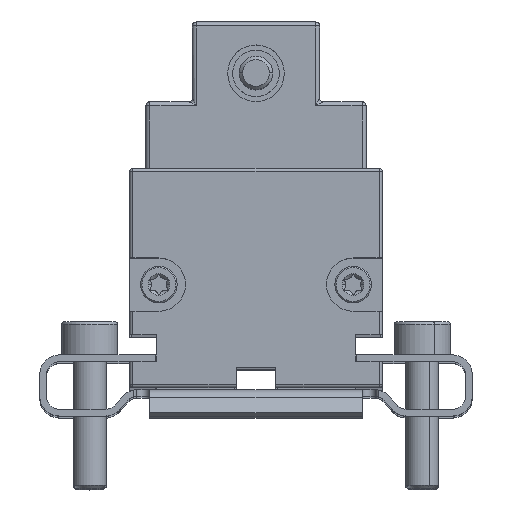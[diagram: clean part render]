
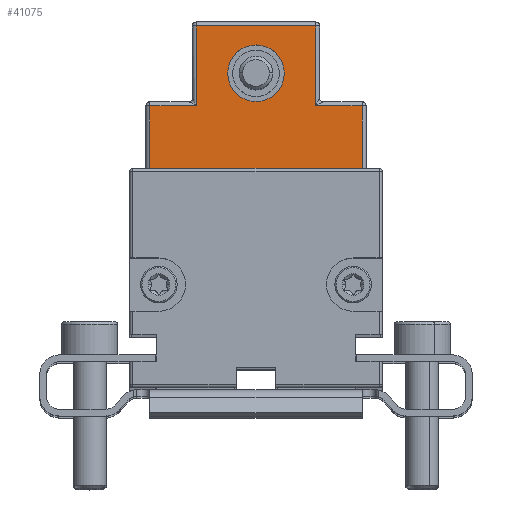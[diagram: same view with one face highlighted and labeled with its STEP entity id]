
A CAD part, top view. The second image highlights one B-rep face of the part: STEP entity #41075.
In plain terms, the highlighted planar face has unit normal (0, 0, 1).
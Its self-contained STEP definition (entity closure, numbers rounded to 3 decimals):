
#15594 = CARTESIAN_POINT ( 'NONE',  ( 0., 51.75, 104.1 ) ) ;
#15595 = DIRECTION ( 'NONE',  ( 0., 1., 0. ) ) ;
#15596 = DIRECTION ( 'NONE',  ( 0., 0., 1. ) ) ;
#15597 = AXIS2_PLACEMENT_3D ( 'NONE', #15629, #15596, #15595 ) ;
#15598 = CIRCLE ( 'NONE', #15597, 4.25 ) ;
#15629 = CARTESIAN_POINT ( 'NONE',  ( 0., 47.5, 104.1 ) ) ;
#15847 = CARTESIAN_POINT ( 'NONE',  ( 0., 43.25, 104.1 ) ) ;
#16575 = DIRECTION ( 'NONE',  ( 0., 1., 0. ) ) ;
#16576 = DIRECTION ( 'NONE',  ( 0., 0., 1. ) ) ;
#16577 = CARTESIAN_POINT ( 'NONE',  ( 0., 47.5, 104.1 ) ) ;
#16578 = AXIS2_PLACEMENT_3D ( 'NONE', #16577, #16576, #16575 ) ;
#16583 = CIRCLE ( 'NONE', #16578, 4.25 ) ;
#16658 = DIRECTION ( 'NONE',  ( 0., -1., 0. ) ) ;
#16659 = VECTOR ( 'NONE', #16658, 1000. ) ;
#16660 = CARTESIAN_POINT ( 'NONE',  ( -8.95, 31.3, 104.1 ) ) ;
#16661 = LINE ( 'NONE', #16660, #16659 ) ;
#16662 = CARTESIAN_POINT ( 'NONE',  ( -8.95, 54.6, 104.1 ) ) ;
#16663 = DIRECTION ( 'NONE',  ( -1., 0., 0. ) ) ;
#16664 = VECTOR ( 'NONE', #16663, 1000. ) ;
#16665 = CARTESIAN_POINT ( 'NONE',  ( -15.25, 54.6, 104.1 ) ) ;
#16666 = LINE ( 'NONE', #16665, #16664 ) ;
#16667 = CARTESIAN_POINT ( 'NONE',  ( 8.95, 54.6, 104.1 ) ) ;
#16668 = DIRECTION ( 'NONE',  ( 0., 1., 0. ) ) ;
#16669 = VECTOR ( 'NONE', #16668, 1000. ) ;
#16670 = CARTESIAN_POINT ( 'NONE',  ( 8.95, 55.2, 104.1 ) ) ;
#16671 = LINE ( 'NONE', #16670, #16669 ) ;
#16672 = CARTESIAN_POINT ( 'NONE',  ( 8.95, 42.6, 104.1 ) ) ;
#16673 = DIRECTION ( 'NONE',  ( -1., 0., 0. ) ) ;
#16674 = VECTOR ( 'NONE', #16673, 1000. ) ;
#16675 = CARTESIAN_POINT ( 'NONE',  ( -15.25, 42.6, 104.1 ) ) ;
#16676 = LINE ( 'NONE', #16675, #16674 ) ;
#16677 = DIRECTION ( 'NONE',  ( 0., 1., 0. ) ) ;
#16678 = VECTOR ( 'NONE', #16677, 1000. ) ;
#16679 = CARTESIAN_POINT ( 'NONE',  ( 15.95, 31.3, 104.1 ) ) ;
#16680 = LINE ( 'NONE', #16679, #16678 ) ;
#17021 = FACE_OUTER_BOUND ( 'NONE', #40861, .T. ) ;
#17022 = FACE_BOUND ( 'NONE', #41076, .T. ) ;
#17051 = DIRECTION ( 'NONE',  ( 0., -1., 0. ) ) ;
#17052 = DIRECTION ( 'NONE',  ( 0., 0., -1. ) ) ;
#17053 = CARTESIAN_POINT ( 'NONE',  ( -15.25, 31.3, 104.1 ) ) ;
#17054 = AXIS2_PLACEMENT_3D ( 'NONE', #17053, #17052, #17051 ) ;
#17056 = PLANE ( 'NONE',  #17054 ) ;
#21101 = CARTESIAN_POINT ( 'NONE',  ( -16.55, 42.6, 104.1 ) ) ;
#21102 = VECTOR ( 'NONE', #21123, 1000. ) ;
#21110 = CARTESIAN_POINT ( 'NONE',  ( 9.75, 31., 104.1 ) ) ;
#21111 = DIRECTION ( 'NONE',  ( -1., 0., 0. ) ) ;
#21112 = VECTOR ( 'NONE', #21111, 1000. ) ;
#21113 = CARTESIAN_POINT ( 'NONE',  ( 9.75, 31., 104.1 ) ) ;
#21114 = LINE ( 'NONE', #21113, #21112 ) ;
#21119 = CARTESIAN_POINT ( 'NONE',  ( 15.95, 42.6, 104.1 ) ) ;
#21120 = CARTESIAN_POINT ( 'NONE',  ( 15.95, 31.2, 104.1 ) ) ;
#21121 = DIRECTION ( 'NONE',  ( -1., 0., 0. ) ) ;
#21122 = CARTESIAN_POINT ( 'NONE',  ( -8.95, 42.6, 104.1 ) ) ;
#21123 = DIRECTION ( 'NONE',  ( -1., 0., 0. ) ) ;
#21158 = CARTESIAN_POINT ( 'NONE',  ( -9.75, 31., 104.1 ) ) ;
#21159 = DIRECTION ( 'NONE',  ( 0., 1., 0. ) ) ;
#21160 = VECTOR ( 'NONE', #21159, 1000. ) ;
#21161 = CARTESIAN_POINT ( 'NONE',  ( -9.75, 31., 104.1 ) ) ;
#21162 = LINE ( 'NONE', #21161, #21160 ) ;
#21196 = LINE ( 'NONE', #21269, #21268 ) ;
#21198 = CARTESIAN_POINT ( 'NONE',  ( -15.95, 42.6, 104.1 ) ) ;
#21209 = LINE ( 'NONE', #21101, #21102 ) ;
#21220 = VECTOR ( 'NONE', #21121, 1000. ) ;
#21221 = CARTESIAN_POINT ( 'NONE',  ( -15.95, 31.2, 104.1 ) ) ;
#21222 = LINE ( 'NONE', #21221, #21220 ) ;
#21223 = CARTESIAN_POINT ( 'NONE',  ( 9.75, 31.2, 104.1 ) ) ;
#21224 = DIRECTION ( 'NONE',  ( 0., 1., 0. ) ) ;
#21225 = VECTOR ( 'NONE', #21224, 1000. ) ;
#21226 = CARTESIAN_POINT ( 'NONE',  ( 9.75, 31., 104.1 ) ) ;
#21227 = LINE ( 'NONE', #21226, #21225 ) ;
#21267 = DIRECTION ( 'NONE',  ( 0., -1., 0. ) ) ;
#21268 = VECTOR ( 'NONE', #21267, 1000. ) ;
#21269 = CARTESIAN_POINT ( 'NONE',  ( -15.95, 31.3, 104.1 ) ) ;
#25845 = CARTESIAN_POINT ( 'NONE',  ( -15.95, 31.2, 104.1 ) ) ;
#25846 = DIRECTION ( 'NONE',  ( -1., 0., 0. ) ) ;
#25847 = VECTOR ( 'NONE', #25846, 1000. ) ;
#25848 = CARTESIAN_POINT ( 'NONE',  ( -15.95, 31.2, 104.1 ) ) ;
#25849 = LINE ( 'NONE', #25848, #25847 ) ;
#25851 = CARTESIAN_POINT ( 'NONE',  ( -9.75, 31.2, 104.1 ) ) ;
#40577 = EDGE_CURVE ( 'NONE', #40622, #40578, #15598, .T. ) ;
#40578 = VERTEX_POINT ( 'NONE', #15594 ) ;
#40622 = VERTEX_POINT ( 'NONE', #15847 ) ;
#40858 = ORIENTED_EDGE ( 'NONE', *, *, #40859, .F. ) ;
#40859 = EDGE_CURVE ( 'NONE', #40578, #40622, #16583, .T. ) ;
#40860 = ORIENTED_EDGE ( 'NONE', *, *, #40577, .F. ) ;
#40861 = EDGE_LOOP ( 'NONE', ( #40862, #40866, #40868, #40883, #40886, #40889, #40892, #40931, #40933, #40936, #40939, #40942 ) ) ;
#40862 = ORIENTED_EDGE ( 'NONE', *, *, #40863, .T. ) ;
#40863 = EDGE_CURVE ( 'NONE', #40864, #40865, #21209, .T. ) ;
#40864 = VERTEX_POINT ( 'NONE', #21122 ) ;
#40865 = VERTEX_POINT ( 'NONE', #21198 ) ;
#40866 = ORIENTED_EDGE ( 'NONE', *, *, #40867, .T. ) ;
#40867 = EDGE_CURVE ( 'NONE', #40865, #44118, #21196, .T. ) ;
#40868 = ORIENTED_EDGE ( 'NONE', *, *, #44117, .F. ) ;
#40883 = ORIENTED_EDGE ( 'NONE', *, *, #40884, .F. ) ;
#40884 = EDGE_CURVE ( 'NONE', #40885, #44114, #21162, .T. ) ;
#40885 = VERTEX_POINT ( 'NONE', #21158 ) ;
#40886 = ORIENTED_EDGE ( 'NONE', *, *, #40887, .F. ) ;
#40887 = EDGE_CURVE ( 'NONE', #40888, #40885, #21114, .T. ) ;
#40888 = VERTEX_POINT ( 'NONE', #21110 ) ;
#40889 = ORIENTED_EDGE ( 'NONE', *, *, #40890, .T. ) ;
#40890 = EDGE_CURVE ( 'NONE', #40888, #40891, #21227, .T. ) ;
#40891 = VERTEX_POINT ( 'NONE', #21223 ) ;
#40892 = ORIENTED_EDGE ( 'NONE', *, *, #40893, .F. ) ;
#40893 = EDGE_CURVE ( 'NONE', #40894, #40891, #21222, .T. ) ;
#40894 = VERTEX_POINT ( 'NONE', #21120 ) ;
#40895 = VERTEX_POINT ( 'NONE', #21119 ) ;
#40931 = ORIENTED_EDGE ( 'NONE', *, *, #40932, .T. ) ;
#40932 = EDGE_CURVE ( 'NONE', #40894, #40895, #16680, .T. ) ;
#40933 = ORIENTED_EDGE ( 'NONE', *, *, #40934, .T. ) ;
#40934 = EDGE_CURVE ( 'NONE', #40895, #40935, #16676, .T. ) ;
#40935 = VERTEX_POINT ( 'NONE', #16672 ) ;
#40936 = ORIENTED_EDGE ( 'NONE', *, *, #40937, .T. ) ;
#40937 = EDGE_CURVE ( 'NONE', #40935, #40938, #16671, .T. ) ;
#40938 = VERTEX_POINT ( 'NONE', #16667 ) ;
#40939 = ORIENTED_EDGE ( 'NONE', *, *, #40940, .T. ) ;
#40940 = EDGE_CURVE ( 'NONE', #40938, #40941, #16666, .T. ) ;
#40941 = VERTEX_POINT ( 'NONE', #16662 ) ;
#40942 = ORIENTED_EDGE ( 'NONE', *, *, #40943, .T. ) ;
#40943 = EDGE_CURVE ( 'NONE', #40941, #40864, #16661, .T. ) ;
#41075 = ADVANCED_FACE ( 'NONE', ( #17022, #17021 ), #17056, .F. ) ;
#41076 = EDGE_LOOP ( 'NONE', ( #40858, #40860 ) ) ;
#44114 = VERTEX_POINT ( 'NONE', #25851 ) ;
#44117 = EDGE_CURVE ( 'NONE', #44114, #44118, #25849, .T. ) ;
#44118 = VERTEX_POINT ( 'NONE', #25845 ) ;
